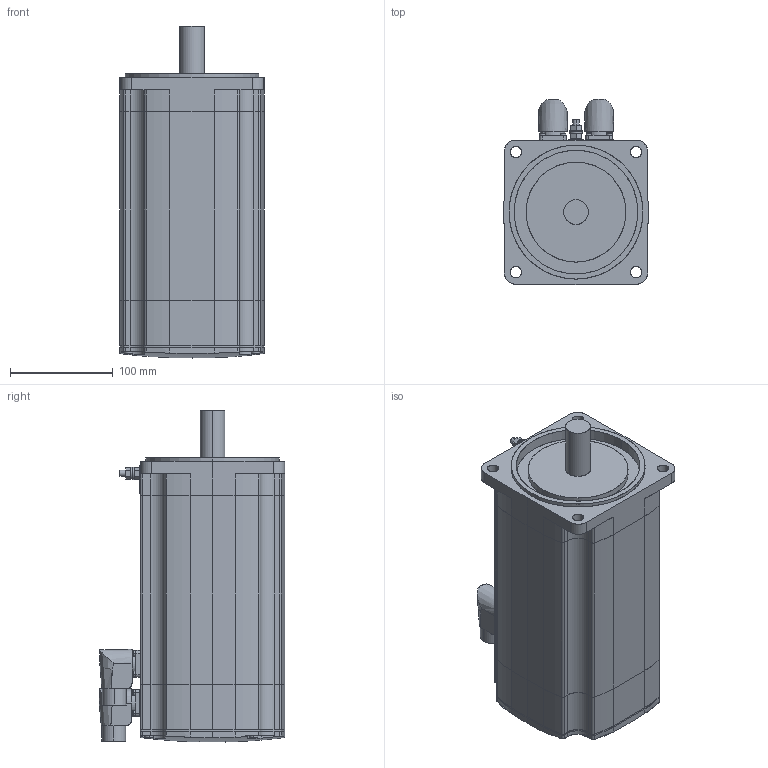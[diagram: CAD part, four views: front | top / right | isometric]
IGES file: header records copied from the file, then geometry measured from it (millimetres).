
Start section: SolidWorks IGES file using analytic representation for surfaces
Global section: file name: C:\PDM\SW-SAP\AA-IGES\SH31402x0xA2100.IGS; native system: SolidWorks 2010; preprocessor: SolidWorks 2010; author: SESA21951; date: 131129.110858; units: millimetre
Bounding box: 140 x 179.9 x 322.35 mm (x, y, z)
Surface area: 344229.1 mm2 (no closed solid volume)
Topology: 0 solids, 0 shells, 469 faces, 6978 edges, 6978 vertices
Faces by surface type: revolution 253, bspline 216
